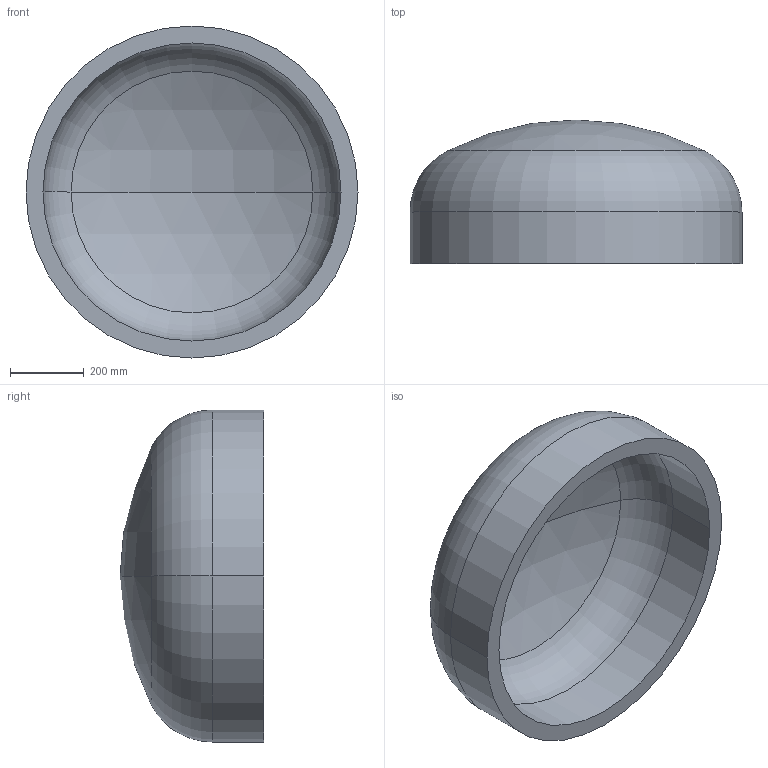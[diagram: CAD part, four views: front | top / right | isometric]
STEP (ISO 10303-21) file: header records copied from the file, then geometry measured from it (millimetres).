
FILE_DESCRIPTION (( 'STEP AP203' ), '1' );
FILE_NAME ('DIN 28013 Korbbogenform_-_Boden DIN 28013 - 900 x 140 - I - s=46.step', '2016-07-01T08:32:26', ( '' ), ( '' ), 'SwSTEP 2.0', 'SolidWorks 2013', '' );
FILE_SCHEMA (( 'CONFIG_CONTROL_DESIGN' ));
Length unit declared in the file: millimetre
Products named in the file (1): DIN 28013 Korbbogenform_-_Boden DIN 28013 - 900 x 140 - I - s=46
Bounding box: 900 x 389.57 x 900 mm (x, y, z)
Volume: 55312509.5 mm3; surface area: 2532737.3 mm2
Topology: 1 solids, 1 shells, 13 faces, 24 edges, 14 vertices
Faces by surface type: torus 4, cylinder 4, sphere 4, plane 1
Entity records: 407 total; most frequent: DIRECTION 72, CARTESIAN_POINT 52, ORIENTED_EDGE 48, AXIS2_PLACEMENT_3D 34, EDGE_CURVE 24, CIRCLE 20, EDGE_LOOP 14, VERTEX_POINT 14
